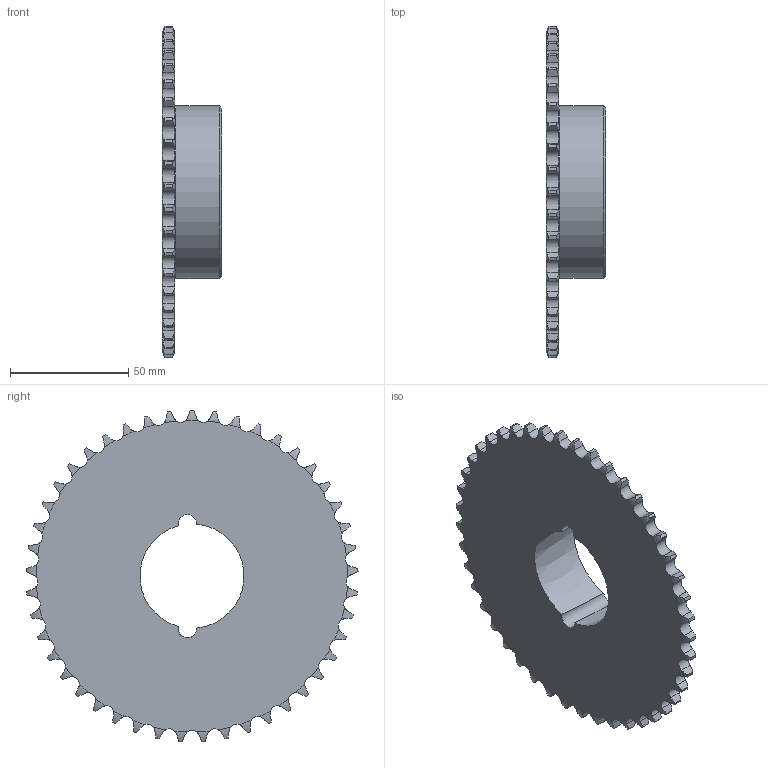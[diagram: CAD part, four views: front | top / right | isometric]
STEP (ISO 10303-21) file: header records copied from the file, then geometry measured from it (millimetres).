
FILE_DESCRIPTION(/* description */ (''),/* implementation_level */ '2;1');
FILE_NAME(/* name */ 'C:\Users\stagistaCAD\Desktop\17109045.stp',/* time_stamp */ '2018-06-18T09:05:23+02:00',/* author */ ('stagistacad'),/* organization */ (''),/* preprocessor_version */ 'ST-DEVELOPER v15.6',/* originating_system */ 'Autodesk Inventor 2015',/* authorisation */ '');
FILE_SCHEMA (('AUTOMOTIVE_DESIGN { 1 0 10303 214 3 1 1 }'));
Length unit declared in the file: millimetre
Products named in the file (1): 17109045
Bounding box: 25 x 140.16 x 140.07 mm (x, y, z)
Volume: 114017 mm3; surface area: 36250.1 mm2
Topology: 1 solids, 1 shells, 282 faces, 835 edges, 556 vertices
Faces by surface type: cylinder 184, torus 91, cone 4, plane 3
Full cylindrical faces by diameter (mm): 73 x1
Entity records: 10470 total; most frequent: CARTESIAN_POINT 3354, ORIENTED_EDGE 1664, DIRECTION 1316, EDGE_CURVE 832, AXIS2_PLACEMENT_3D 568, VERTEX_POINT 556, B_SPLINE_CURVE_WITH_KNOTS 367, EDGE_LOOP 288
